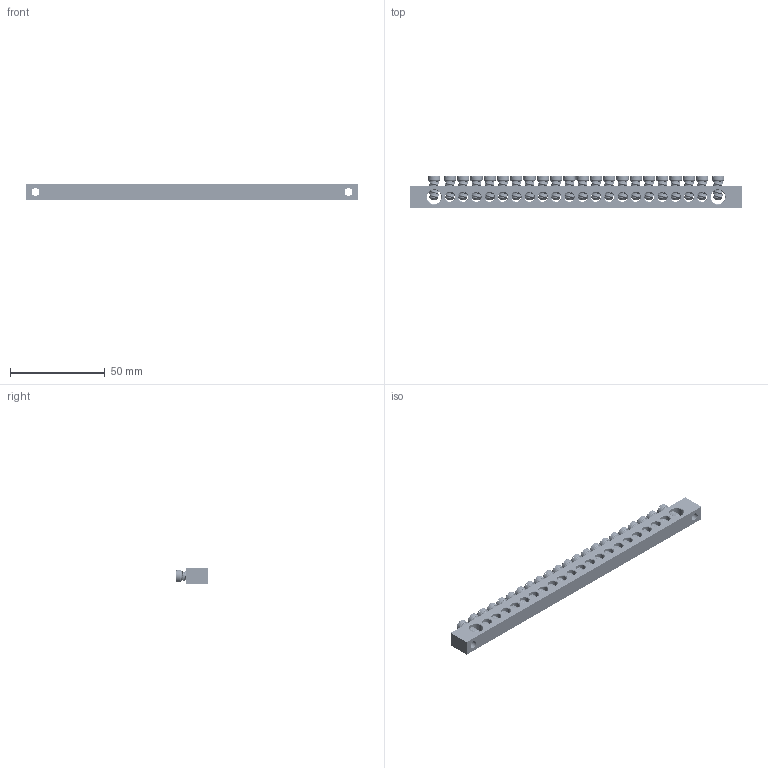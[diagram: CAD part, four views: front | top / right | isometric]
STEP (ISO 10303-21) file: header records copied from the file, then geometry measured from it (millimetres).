
FILE_DESCRIPTION (( 'STEP AP214' ), '1' );
FILE_NAME ('278016 OptiKit BB-PEN-S-22-8õ12-2.STEP', '2020-02-07T06:48:55', ( '' ), ( '' ), 'SwSTEP 2.0', 'SolidWorks 2018', '' );
FILE_SCHEMA (( 'AUTOMOTIVE_DESIGN' ));
Length unit declared in the file: millimetre
Products named in the file (3): Âèíò ì5; Øèíà 8õ12 22 2; 278016 OptiKit BB-PEN-S-22-8õ12-2
Assembly tree (23 placements, depth 2):
  278016 OptiKit BB-PEN-S-22-8õ12-2
    Øèíà 8õ12 22 2
    Âèíò ì5  x22
Bounding box: 175 x 17.3 x 8 mm (x, y, z)
Volume: 17089.8 mm3; surface area: 17039.7 mm2
Topology: 23 solids, 23 shells, 1836 faces, 5084 edges, 3272 vertices
Faces by surface type: cylinder 708, plane 600, cone 308, torus 154, bspline 66
Entity records: 12015 total; most frequent: CARTESIAN_POINT 4833, DIRECTION 1369, ORIENTED_EDGE 1344, EDGE_CURVE 672, AXIS2_PLACEMENT_3D 549, VERTEX_POINT 416, EDGE_LOOP 354, LINE 271
